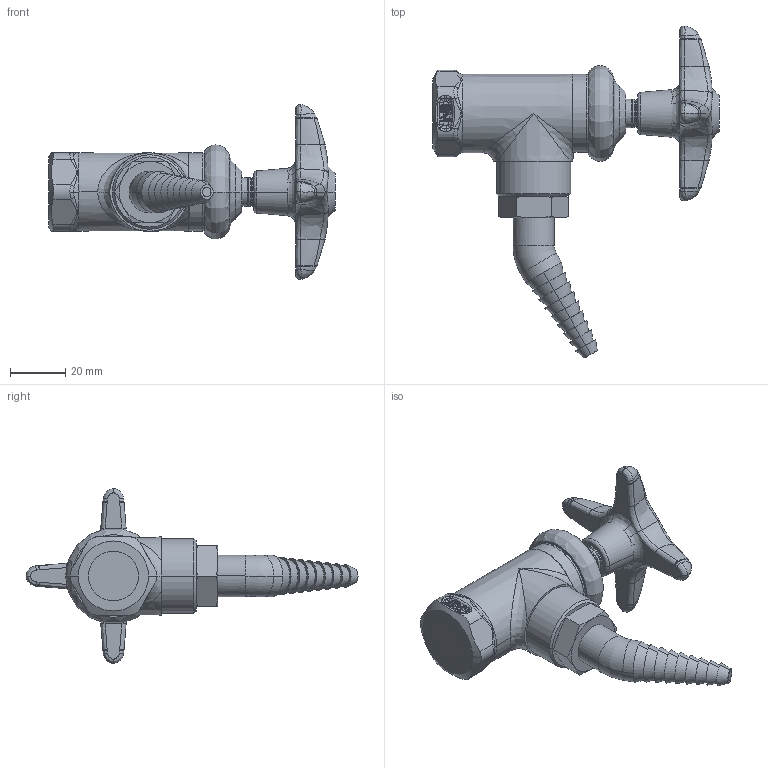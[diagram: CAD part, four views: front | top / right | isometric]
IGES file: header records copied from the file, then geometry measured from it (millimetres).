
Start section:  PTC IGES file: LWV2-C24.igs
Global section: file name: LWV2-C24.igs; native system: Creo Parametric by PTC Inc.; preprocessor: 2014500; author: usch_engrender; organization: Unknown; date: 20150903.150351; units: inch
Bounding box: 103.84 x 120.39 x 63.42 mm (x, y, z)
Volume: 56195.5 mm3; surface area: 26983.9 mm2
Topology: 1 solids, 4 shells, 604 faces, 1384 edges, 810 vertices
Faces by surface type: bspline 338, revolution 266
